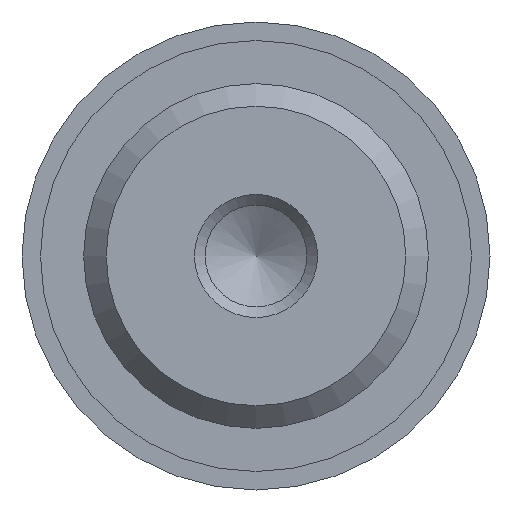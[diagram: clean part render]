
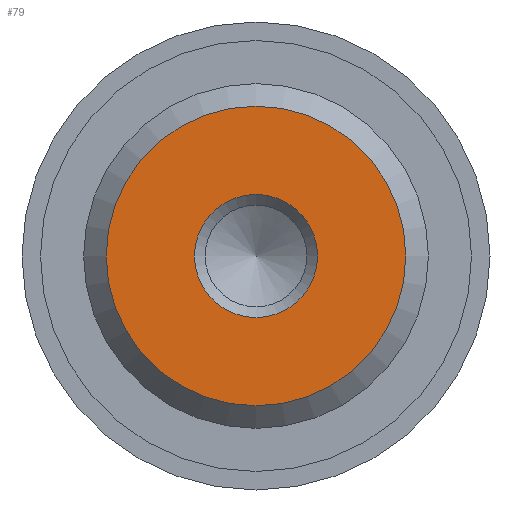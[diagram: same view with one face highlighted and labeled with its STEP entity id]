
A CAD part, front view. The second image highlights one B-rep face of the part: STEP entity #79.
In plain terms, the highlighted planar face has unit normal (0, -1, 0).
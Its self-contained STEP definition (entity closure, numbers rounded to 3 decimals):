
#79 = ADVANCED_FACE( '', ( #139, #140 ), #141, .F. );
#139 = FACE_BOUND( '', #257, .T. );
#140 = FACE_OUTER_BOUND( '', #258, .T. );
#141 = PLANE( '', #259 );
#257 = EDGE_LOOP( '', ( #387 ) );
#258 = EDGE_LOOP( '', ( #388 ) );
#259 = AXIS2_PLACEMENT_3D( '', #389, #390, #391 );
#387 = ORIENTED_EDGE( '', *, *, #758, .F. );
#388 = ORIENTED_EDGE( '', *, *, #762, .T. );
#389 = CARTESIAN_POINT( '', ( 6.08, 0., 0. ) );
#390 = DIRECTION( '', ( 0., 1., 0. ) );
#391 = DIRECTION( '', ( 0., 0., 1. ) );
#758 = EDGE_CURVE( '', #880, #880, #881, .T. );
#762 = EDGE_CURVE( '', #886, #886, #887, .T. );
#880 = VERTEX_POINT( '', #1090 );
#881 = CIRCLE( '', #1091, 2.5 );
#886 = VERTEX_POINT( '', #1096 );
#887 = CIRCLE( '', #1097, 6.08 );
#1090 = CARTESIAN_POINT( '', ( 2.5, 0., 0. ) );
#1091 = AXIS2_PLACEMENT_3D( '', #1430, #1431, #1432 );
#1096 = CARTESIAN_POINT( '', ( 0., 0., -6.08 ) );
#1097 = AXIS2_PLACEMENT_3D( '', #1439, #1440, #1441 );
#1430 = CARTESIAN_POINT( '', ( 0., 0., 0. ) );
#1431 = DIRECTION( '', ( 0., -1., 0. ) );
#1432 = DIRECTION( '', ( 1., 0., 0. ) );
#1439 = CARTESIAN_POINT( '', ( 0., 0., 0. ) );
#1440 = DIRECTION( '', ( 0., -1., 0. ) );
#1441 = DIRECTION( '', ( 0., 0., -1. ) );
